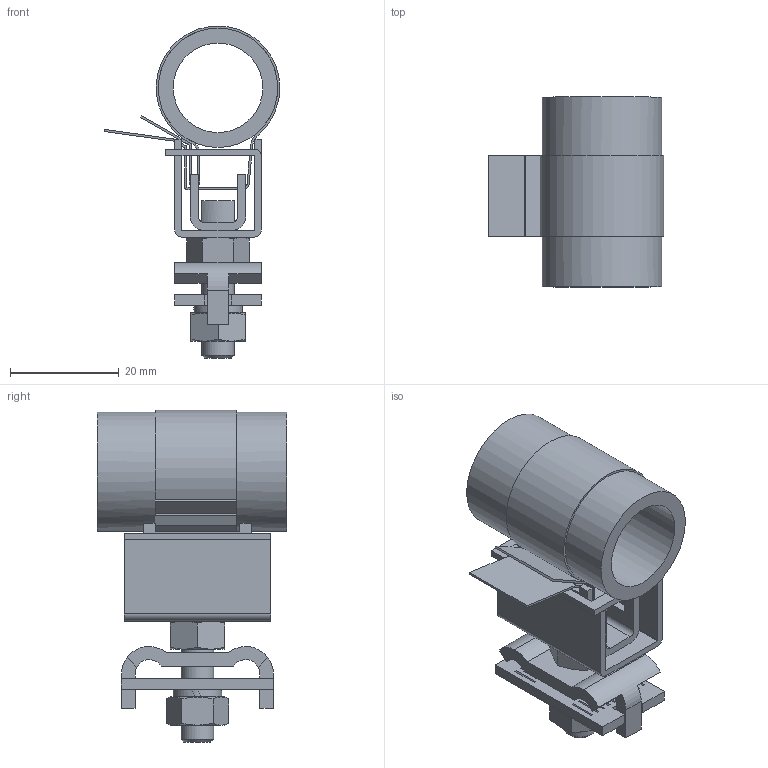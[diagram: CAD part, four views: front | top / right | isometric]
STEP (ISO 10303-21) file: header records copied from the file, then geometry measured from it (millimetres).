
FILE_DESCRIPTION(/* description */ ('Unknown'),/* implementation_level */ '2;1');
FILE_NAME(/* name */ 'ZSA 16',/* time_stamp */ '2021-10-13T11:47:19+02:00',/* author */ ('Unknown'),/* organization */ ('Unknown'),/* preprocessor_version */ 'ST-DEVELOPER v16.7',/* originating_system */ 'Solid Edge',/* authorisation */ 'Unknown');
FILE_SCHEMA (('AUTOMOTIVE_DESIGN {1 0 10303 214 3 1 1}'));
Length unit declared in the file: millimetre
Products named in the file (1): ZSA 16
Bounding box: 32.39 x 35 x 61.2 mm (x, y, z)
Volume: 12266.5 mm3; surface area: 13858.7 mm2
Topology: 2 solids, 2 shells, 290 faces, 789 edges, 515 vertices
Faces by surface type: plane 213, cylinder 52, cone 25
Full cylindrical faces by diameter (mm): 6 x3, 6.4 x1, 6.5 x2, 6.9 x1, 16.5 x1, 22 x1
Entity records: 9076 total; most frequent: CARTESIAN_POINT 1744, ORIENTED_EDGE 1538, DIRECTION 1441, EDGE_CURVE 769, LINE 567, VECTOR 567, VERTEX_POINT 506, AXIS2_PLACEMENT_3D 437
